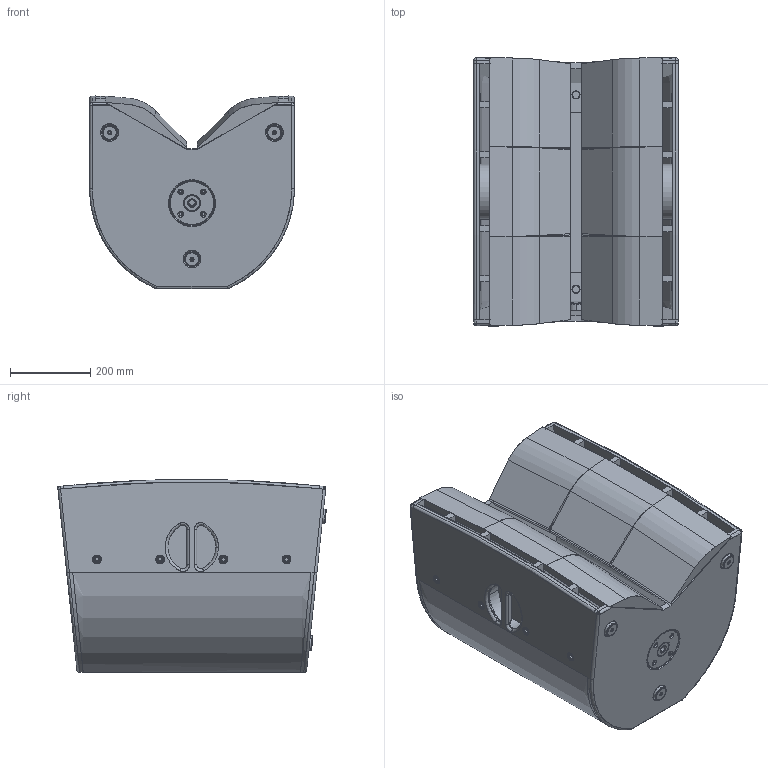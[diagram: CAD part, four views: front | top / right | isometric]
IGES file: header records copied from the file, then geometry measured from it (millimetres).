
Start section: SolidWorks IGES file using analytic representation for surfaces
Global section: file name: C:\Dokumente und Einstellungen\PC_Fabian\Desktop\G-Serie\Seeburg_G3.IGS; native system: SolidWorks 2009; preprocessor: SolidWorks 2009; author: PC_Fabian; date: 121015.150633; units: millimetre
Bounding box: 512 x 671.21 x 482.84 mm (x, y, z)
Surface area: 3816453.3 mm2 (no closed solid volume)
Topology: 0 solids, 0 shells, 839 faces, 10957 edges, 10934 vertices
Faces by surface type: bspline 434, revolution 405
